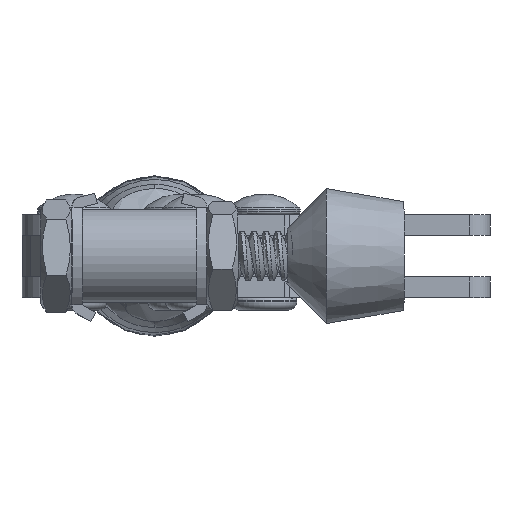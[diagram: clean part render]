
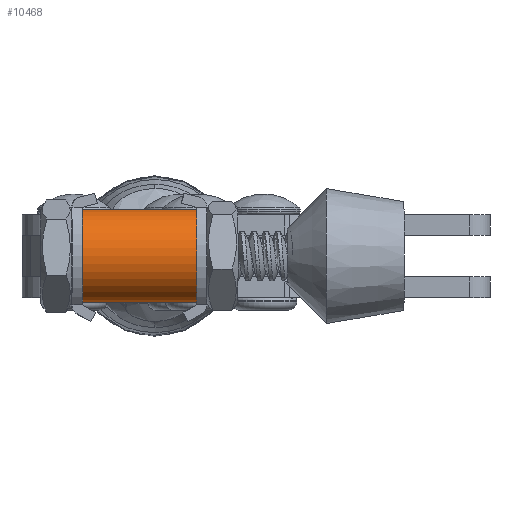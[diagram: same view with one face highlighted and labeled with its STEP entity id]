
A CAD part, left-side view. The second image highlights one B-rep face of the part: STEP entity #10468.
In plain terms, the highlighted cylindrical face has radius 4.5 mm (diameter 9 mm), a partial arc.
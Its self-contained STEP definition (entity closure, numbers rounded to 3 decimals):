
#1475=FACE_OUTER_BOUND('',#2053,.T.);
#2053=EDGE_LOOP('',(#8779,#8780,#8781,#8782));
#2898=LINE('',#24444,#3747);
#2901=LINE('',#24450,#3750);
#3747=VECTOR('',#12491,1000.);
#3750=VECTOR('',#12496,1000.);
#4028=CIRCLE('',#11069,4.5);
#4029=CIRCLE('',#11070,4.5);
#4918=VERTEX_POINT('',#24442);
#4919=VERTEX_POINT('',#24443);
#4920=VERTEX_POINT('',#24448);
#4921=VERTEX_POINT('',#24449);
#6309=EDGE_CURVE('',#4918,#4919,#2898,.T.);
#6312=EDGE_CURVE('',#4920,#4921,#2901,.T.);
#6313=EDGE_CURVE('',#4918,#4921,#4028,.T.);
#6314=EDGE_CURVE('',#4920,#4919,#4029,.T.);
#8779=ORIENTED_EDGE('',*,*,#6312,.T.);
#8780=ORIENTED_EDGE('',*,*,#6313,.F.);
#8781=ORIENTED_EDGE('',*,*,#6309,.T.);
#8782=ORIENTED_EDGE('',*,*,#6314,.F.);
#10028=CYLINDRICAL_SURFACE('',#11068,4.5);
#10468=ADVANCED_FACE('',(#1475),#10028,.T.);
#11068=AXIS2_PLACEMENT_3D('',#24447,#12494,#12495);
#11069=AXIS2_PLACEMENT_3D('',#24451,#12497,#12498);
#11070=AXIS2_PLACEMENT_3D('',#24452,#12499,#12500);
#12491=DIRECTION('',(0.,-1.,0.));
#12494=DIRECTION('center_axis',(0.,-1.,0.));
#12495=DIRECTION('ref_axis',(0.,0.,-1.));
#12496=DIRECTION('',(0.,1.,0.));
#12497=DIRECTION('center_axis',(0.,1.,0.));
#12498=DIRECTION('ref_axis',(0.,0.,-1.));
#12499=DIRECTION('center_axis',(0.,-1.,0.));
#12500=DIRECTION('ref_axis',(0.,0.,-1.));
#24442=CARTESIAN_POINT('',(-42.9,16.35,-4.5));
#24443=CARTESIAN_POINT('',(-42.9,5.35,-4.5));
#24444=CARTESIAN_POINT('',(-42.9,22.,-4.5));
#24447=CARTESIAN_POINT('Origin',(-42.9,22.,0.));
#24448=CARTESIAN_POINT('',(-42.9,5.35,4.5));
#24449=CARTESIAN_POINT('',(-42.9,16.35,4.5));
#24450=CARTESIAN_POINT('',(-42.9,22.,4.5));
#24451=CARTESIAN_POINT('Origin',(-42.9,16.35,0.));
#24452=CARTESIAN_POINT('Origin',(-42.9,5.35,0.));
